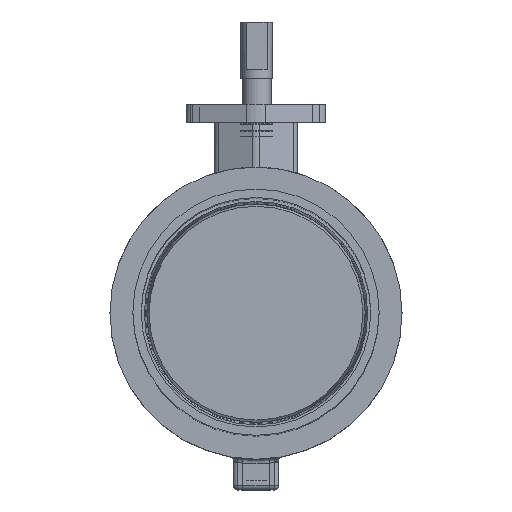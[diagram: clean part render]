
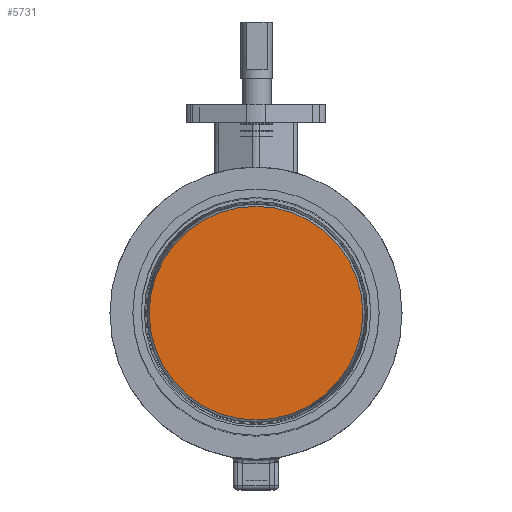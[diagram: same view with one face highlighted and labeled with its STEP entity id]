
A CAD part, top view. The second image highlights one B-rep face of the part: STEP entity #5731.
In plain terms, the highlighted planar face has unit normal (0, 0, 1).
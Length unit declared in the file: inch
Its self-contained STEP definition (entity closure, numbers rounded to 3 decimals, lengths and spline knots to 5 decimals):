
#265=PLANE('',#6463);
#667=FACE_OUTER_BOUND('',#1040,.T.);
#1040=EDGE_LOOP('',(#4982,#4983));
#2116=CIRCLE('',#6464,4.66535);
#2117=CIRCLE('',#6465,4.66535);
#2639=VERTEX_POINT('',#10840);
#2640=VERTEX_POINT('',#10841);
#3424=EDGE_CURVE('',#2639,#2640,#2116,.T.);
#3425=EDGE_CURVE('',#2640,#2639,#2117,.T.);
#4982=ORIENTED_EDGE('',*,*,#3424,.F.);
#4983=ORIENTED_EDGE('',*,*,#3425,.F.);
#5731=ADVANCED_FACE('',(#667),#265,.T.);
#6463=AXIS2_PLACEMENT_3D('',#10839,#8180,#8181);
#6464=AXIS2_PLACEMENT_3D('',#10842,#8182,#8183);
#6465=AXIS2_PLACEMENT_3D('',#10843,#8184,#8185);
#8180=DIRECTION('center_axis',(0.,0.,1.));
#8181=DIRECTION('ref_axis',(1.,0.,0.));
#8182=DIRECTION('center_axis',(0.,0.,-1.));
#8183=DIRECTION('ref_axis',(1.,0.,0.));
#8184=DIRECTION('center_axis',(0.,0.,-1.));
#8185=DIRECTION('ref_axis',(1.,0.,0.));
#10839=CARTESIAN_POINT('Origin',(-4.66535,0.,1.13386));
#10840=CARTESIAN_POINT('',(-4.66535,0.,1.13386));
#10841=CARTESIAN_POINT('',(4.66535,0.,1.13386));
#10842=CARTESIAN_POINT('Origin',(0.,0.,1.13386));
#10843=CARTESIAN_POINT('Origin',(0.,0.,1.13386));
